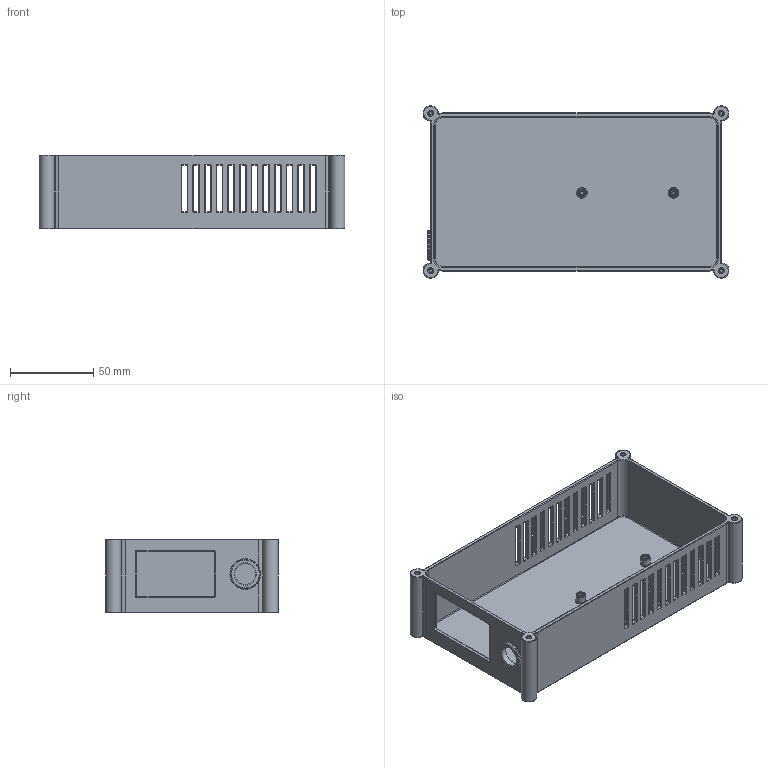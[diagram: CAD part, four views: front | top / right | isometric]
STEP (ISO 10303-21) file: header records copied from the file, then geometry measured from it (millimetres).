
FILE_DESCRIPTION(('Open CASCADE Model'),'2;1');
FILE_NAME('Open CASCADE Shape Model','2026-11-19T06:42:22',('Author'),( 'Open CASCADE'),'Open CASCADE STEP processor 8.0','Open CASCADE 8.0' ,'Unknown');
FILE_SCHEMA(('AUTOMOTIVE_DESIGN { 1 0 10303 214 1 1 1 1 }'));
Length unit declared in the file: millimetre
Products named in the file (1): Open CASCADE STEP translator 8.0 43
Bounding box: 183.66 x 103.66 x 44.4 mm (x, y, z)
Volume: 93913.7 mm3; surface area: 77765.5 mm2
Topology: 1 solids, 1 shells, 740 faces, 1701 edges, 972 vertices
Faces by surface type: cylinder 342, torus 269, plane 120, bspline 9
Full cylindrical faces by diameter (mm): 2.75 x6, 5.6 x2, 12.65 x1, 17.7 x1
Entity records: 43173 total; most frequent: CARTESIAN_POINT 9255, DIRECTION 6491, ORIENTED_EDGE 3402, PCURVE 3402, DEFINITIONAL_REPRESENTATION 3402, LINE 2786, VECTOR 2786, AXIS2_PLACEMENT_3D 1756
